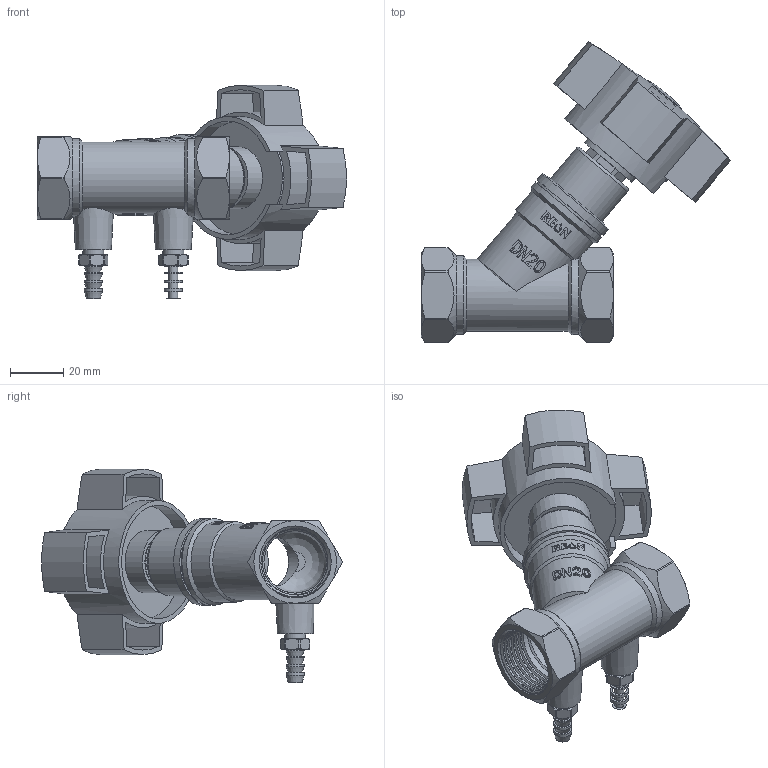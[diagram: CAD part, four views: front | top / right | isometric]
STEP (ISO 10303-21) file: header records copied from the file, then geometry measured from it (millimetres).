
FILE_DESCRIPTION(/* description */ ('STEP AP203'),/* implementation_level */ '2;1');
FILE_NAME(/* name */ 'RSV54-DN20.stp',/* time_stamp */ '2024-12-12T15:08:29+07:00',/* author */ ('Eva'),/* organization */ (''),/* preprocessor_version */ 'ST-DEVELOPER v20',/* originating_system */ 'Autodesk Inventor 2025',/* authorisation */ '');
FILE_SCHEMA (('AUTOMOTIVE_DESIGN { 1 0 10303 214 3 1 1 }'));
Length unit declared in the file: metre
Products named in the file (1): ZL-6602-3£¯4-00 Æ½ºâ·§
Bounding box: 115.99 x 112.89 x 80.05 mm (x, y, z)
Volume: 94245.1 mm3; surface area: 59642.2 mm2
Topology: 16 solids, 16 shells, 849 faces, 2187 edges, 1429 vertices
Faces by surface type: cylinder 334, plane 285, cone 104, bspline 99, sphere 14, torus 13
Full cylindrical faces by diameter (mm): 1.4 x2, 2 x2, 3.3 x2, 4 x2, 4.1 x5, 4.2 x8, 5 x14, 6 x1, 6.2 x2, 6.5 x1, 6.7 x2, 6.75 x12, 6.8 x8, 7 x1, 7.8 x2, 8 x10, 8.1 x1, 8.9 x2, 9.5 x1, 9.8 x2, 10 x3, 10.5 x21, 10.6 x1, 12 x26, 12.5 x1, 13.5 x1, 14 x1, 16.5 x1, 16.8 x1, 18 x1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
Entity records: 52559 total; most frequent: CARTESIAN_POINT 33039, ORIENTED_EDGE 4366, DIRECTION 3655, EDGE_CURVE 2183, VERTEX_POINT 1429, AXIS2_PLACEMENT_3D 1403, EDGE_LOOP 940, LINE 849
